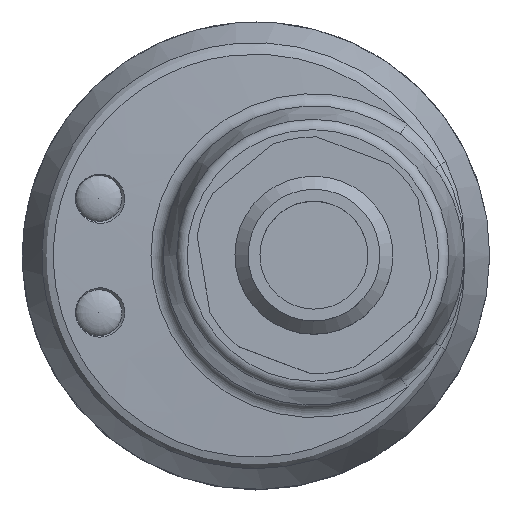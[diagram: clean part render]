
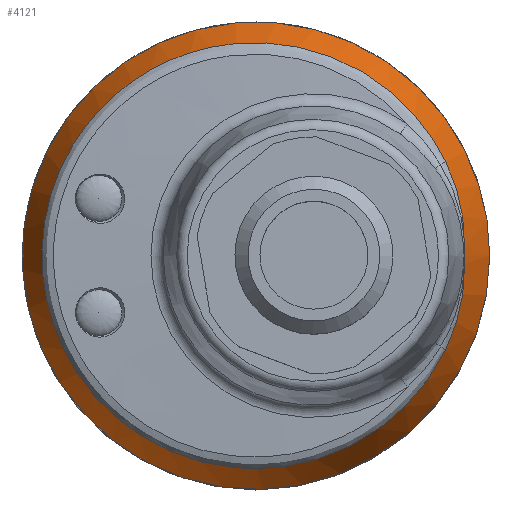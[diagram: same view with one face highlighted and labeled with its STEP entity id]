
A CAD part, top view. The second image highlights one B-rep face of the part: STEP entity #4121.
In plain terms, the highlighted conical face has half-angle 23 degrees and reference radius 15.817 mm.
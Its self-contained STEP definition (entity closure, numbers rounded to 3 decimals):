
#130=B_SPLINE_CURVE_WITH_KNOTS('',3,(#5888,#5889,#5890,#5891,#5892,#5893,
#5894,#5895,#5896,#5897,#5898),.UNSPECIFIED.,.F.,.F.,(4,1,1,1,1,1,1,1,4),
(0.,0.25,0.375,0.438,0.5,0.563,0.625,0.75,1.),.UNSPECIFIED.);
#131=B_SPLINE_CURVE_WITH_KNOTS('',3,(#5911,#5912,#5913,#5914,#5915,#5916,
#5917,#5918,#5919,#5920,#5921),.UNSPECIFIED.,.F.,.F.,(4,1,1,1,1,1,1,1,4),
(0.,0.25,0.375,0.438,0.5,0.563,0.625,0.75,1.),.UNSPECIFIED.);
#136=B_SPLINE_CURVE_WITH_KNOTS('',3,(#6001,#6002,#6003,#6004),
 .UNSPECIFIED.,.F.,.F.,(4,4),(0.,1.),.UNSPECIFIED.);
#142=B_SPLINE_CURVE_WITH_KNOTS('',3,(#6266,#6267,#6268,#6269,#6270,#6271,
#6272,#6273,#6274,#6275,#6276,#6277,#6278,#6279,#6280,#6281,#6282,#6283,
#6284,#6285,#6286,#6287,#6288,#6289,#6290,#6291,#6292,#6293,#6294,#6295,
#6296,#6297,#6298,#6299,#6300,#6301,#6302,#6303,#6304,#6305,#6306,#6307,
#6308,#6309,#6310,#6311,#6312,#6313,#6314,#6315,#6316,#6317,#6318,#6319,
#6320,#6321,#6322,#6323,#6324,#6325,#6326,#6327,#6328,#6329,#6330,#6331,
#6332,#6333,#6334,#6335,#6336,#6337,#6338,#6339,#6340),.UNSPECIFIED.,.F.,
 .F.,(4,1,1,1,1,1,1,1,1,1,1,1,1,1,1,1,1,1,1,1,1,1,1,1,1,1,1,1,1,1,1,1,1,
1,1,1,1,1,1,1,1,1,1,1,1,1,1,1,1,1,1,1,1,1,1,1,1,1,1,1,1,1,1,1,1,1,1,1,1,
1,1,1,4),(0.,0.031,0.063,0.078,0.094,0.102,0.109,0.117,
0.121,0.123,0.125,0.127,0.129,0.133,0.137,
0.141,0.148,0.156,0.172,0.188,0.203,0.219,0.227,0.234,
0.238,0.242,0.246,0.248,0.25,0.251,0.252,
0.254,0.258,0.262,0.266,0.273,0.281,0.297,0.313,
0.328,0.344,0.375,0.406,0.438,0.469,0.484,0.492,0.5,0.508,
0.516,0.531,0.563,0.625,0.656,0.688,0.719,0.734,0.742,
0.75,0.758,0.766,0.781,0.797,0.813,0.844,0.859,0.875,
0.883,0.891,0.906,0.938,0.969,1.),.UNSPECIFIED.);
#701=ORIENTED_EDGE('',*,*,#1312,.T.);
#702=ORIENTED_EDGE('',*,*,#1323,.T.);
#703=ORIENTED_EDGE('',*,*,#1313,.F.);
#704=ORIENTED_EDGE('',*,*,#1347,.T.);
#705=ORIENTED_EDGE('',*,*,#1352,.T.);
#1312=EDGE_CURVE('',#1662,#1663,#130,.T.);
#1313=EDGE_CURVE('',#1664,#1665,#131,.F.);
#1323=EDGE_CURVE('',#1663,#1665,#136,.T.);
#1347=EDGE_CURVE('',#1664,#1662,#142,.T.);
#1352=EDGE_CURVE('',#1693,#1693,#1936,.T.);
#1662=VERTEX_POINT('',#5870);
#1663=VERTEX_POINT('',#5887);
#1664=VERTEX_POINT('',#5922);
#1665=VERTEX_POINT('',#5923);
#1693=VERTEX_POINT('',#6524);
#1936=CIRCLE('',#4370,17.75);
#2149=EDGE_LOOP('',(#701,#702,#703,#704));
#2150=EDGE_LOOP('',(#705));
#2436=FACE_BOUND('',#2149,.T.);
#2437=FACE_BOUND('',#2150,.T.);
#2673=CONICAL_SURFACE('',#4369,15.817,0.401);
#4121=ADVANCED_FACE('',(#2436,#2437),#2673,.T.);
#4369=AXIS2_PLACEMENT_3D('',#6522,#4857,#4858);
#4370=AXIS2_PLACEMENT_3D('',#6523,#4859,#4860);
#4857=DIRECTION('',(0.,0.,-1.));
#4858=DIRECTION('',(-1.,0.,0.));
#4859=DIRECTION('',(0.,0.,1.));
#4860=DIRECTION('',(1.,0.,0.));
#5870=CARTESIAN_POINT('',(14.404,7.136,37.832));
#5887=CARTESIAN_POINT('',(15.84,0.639,38.354));
#5888=CARTESIAN_POINT('',(14.404,7.136,37.832));
#5889=CARTESIAN_POINT('',(14.638,6.659,37.837));
#5890=CARTESIAN_POINT('',(14.957,5.905,37.86));
#5891=CARTESIAN_POINT('',(15.26,4.952,37.916));
#5892=CARTESIAN_POINT('',(15.409,4.399,37.955));
#5893=CARTESIAN_POINT('',(15.514,3.95,37.991));
#5894=CARTESIAN_POINT('',(15.587,3.593,38.023));
#5895=CARTESIAN_POINT('',(15.68,3.066,38.072));
#5896=CARTESIAN_POINT('',(15.806,2.123,38.17));
#5897=CARTESIAN_POINT('',(15.85,1.246,38.275));
#5898=CARTESIAN_POINT('',(15.84,0.639,38.354));
#5911=CARTESIAN_POINT('',(15.84,-0.639,38.354));
#5912=CARTESIAN_POINT('',(15.85,-1.246,38.275));
#5913=CARTESIAN_POINT('',(15.806,-2.123,38.17));
#5914=CARTESIAN_POINT('',(15.68,-3.066,38.072));
#5915=CARTESIAN_POINT('',(15.587,-3.593,38.023));
#5916=CARTESIAN_POINT('',(15.514,-3.95,37.991));
#5917=CARTESIAN_POINT('',(15.409,-4.399,37.955));
#5918=CARTESIAN_POINT('',(15.26,-4.952,37.916));
#5919=CARTESIAN_POINT('',(14.957,-5.905,37.86));
#5920=CARTESIAN_POINT('',(14.638,-6.659,37.837));
#5921=CARTESIAN_POINT('',(14.404,-7.136,37.832));
#5922=CARTESIAN_POINT('',(14.404,-7.136,37.832));
#5923=CARTESIAN_POINT('',(15.84,-0.639,38.354));
#6001=CARTESIAN_POINT('',(15.84,0.639,38.354));
#6002=CARTESIAN_POINT('',(15.868,0.214,38.329));
#6003=CARTESIAN_POINT('',(15.868,-0.214,38.329));
#6004=CARTESIAN_POINT('',(15.84,-0.639,38.354));
#6266=CARTESIAN_POINT('',(14.404,-7.136,37.832));
#6267=CARTESIAN_POINT('',(14.134,-7.686,37.827));
#6268=CARTESIAN_POINT('',(13.468,-8.887,37.814));
#6269=CARTESIAN_POINT('',(12.213,-10.548,37.79));
#6270=CARTESIAN_POINT('',(10.894,-11.888,37.767));
#6271=CARTESIAN_POINT('',(9.928,-12.706,37.751));
#6272=CARTESIAN_POINT('',(9.065,-13.333,37.737));
#6273=CARTESIAN_POINT('',(8.373,-13.784,37.725));
#6274=CARTESIAN_POINT('',(7.753,-14.143,37.716));
#6275=CARTESIAN_POINT('',(7.309,-14.378,37.709));
#6276=CARTESIAN_POINT('',(7.033,-14.515,37.705));
#6277=CARTESIAN_POINT('',(6.869,-14.596,37.702));
#6278=CARTESIAN_POINT('',(6.529,-14.754,37.697));
#6279=CARTESIAN_POINT('',(6.14,-14.923,37.691));
#6280=CARTESIAN_POINT('',(5.638,-15.126,37.683));
#6281=CARTESIAN_POINT('',(5.055,-15.334,37.675));
#6282=CARTESIAN_POINT('',(4.292,-15.574,37.664));
#6283=CARTESIAN_POINT('',(3.374,-15.808,37.651));
#6284=CARTESIAN_POINT('',(1.99,-16.063,37.631));
#6285=CARTESIAN_POINT('',(0.445,-16.193,37.61));
#6286=CARTESIAN_POINT('',(-1.081,-16.161,37.589));
#6287=CARTESIAN_POINT('',(-2.266,-16.037,37.572));
#6288=CARTESIAN_POINT('',(-2.969,-15.918,37.562));
#6289=CARTESIAN_POINT('',(-3.364,-15.839,37.557));
#6290=CARTESIAN_POINT('',(-3.542,-15.801,37.554));
#6291=CARTESIAN_POINT('',(-3.642,-15.779,37.553));
#6292=CARTESIAN_POINT('',(-3.702,-15.765,37.552));
#6293=CARTESIAN_POINT('',(-3.717,-15.762,37.552));
#6294=CARTESIAN_POINT('',(-3.759,-15.752,37.551));
#6295=CARTESIAN_POINT('',(-3.688,-15.768,37.552));
#6296=CARTESIAN_POINT('',(-3.843,-15.732,37.55));
#6297=CARTESIAN_POINT('',(-3.96,-15.704,37.549));
#6298=CARTESIAN_POINT('',(-4.183,-15.648,37.546));
#6299=CARTESIAN_POINT('',(-4.489,-15.565,37.542));
#6300=CARTESIAN_POINT('',(-4.856,-15.457,37.537));
#6301=CARTESIAN_POINT('',(-5.339,-15.301,37.531));
#6302=CARTESIAN_POINT('',(-5.932,-15.087,37.524));
#6303=CARTESIAN_POINT('',(-6.858,-14.703,37.513));
#6304=CARTESIAN_POINT('',(-7.966,-14.15,37.499));
#6305=CARTESIAN_POINT('',(-9.211,-13.38,37.485));
#6306=CARTESIAN_POINT('',(-10.363,-12.516,37.471));
#6307=CARTESIAN_POINT('',(-11.768,-11.253,37.455));
#6308=CARTESIAN_POINT('',(-13.269,-9.499,37.437));
#6309=CARTESIAN_POINT('',(-14.644,-7.204,37.421));
#6310=CARTESIAN_POINT('',(-15.596,-4.807,37.409));
#6311=CARTESIAN_POINT('',(-16.052,-2.784,37.404));
#6312=CARTESIAN_POINT('',(-16.206,-1.393,37.402));
#6313=CARTESIAN_POINT('',(-16.25,-0.596,37.402));
#6314=CARTESIAN_POINT('',(-16.261,-0.036,37.402));
#6315=CARTESIAN_POINT('',(-16.249,0.645,37.402));
#6316=CARTESIAN_POINT('',(-16.197,1.51,37.403));
#6317=CARTESIAN_POINT('',(-16.012,3.043,37.406));
#6318=CARTESIAN_POINT('',(-15.265,6.054,37.414));
#6319=CARTESIAN_POINT('',(-13.558,9.266,37.433));
#6320=CARTESIAN_POINT('',(-11.095,11.954,37.461));
#6321=CARTESIAN_POINT('',(-8.915,13.645,37.486));
#6322=CARTESIAN_POINT('',(-6.874,14.734,37.511));
#6323=CARTESIAN_POINT('',(-5.343,15.308,37.53));
#6324=CARTESIAN_POINT('',(-4.463,15.577,37.542));
#6325=CARTESIAN_POINT('',(-3.75,15.759,37.551));
#6326=CARTESIAN_POINT('',(-3.192,15.877,37.559));
#6327=CARTESIAN_POINT('',(-2.373,16.021,37.57));
#6328=CARTESIAN_POINT('',(-1.335,16.142,37.584));
#6329=CARTESIAN_POINT('',(-0.035,16.191,37.601));
#6330=CARTESIAN_POINT('',(1.747,16.112,37.626));
#6331=CARTESIAN_POINT('',(3.583,15.801,37.652));
#6332=CARTESIAN_POINT('',(5.444,15.216,37.68));
#6333=CARTESIAN_POINT('',(6.563,14.753,37.697));
#6334=CARTESIAN_POINT('',(7.529,14.268,37.713));
#6335=CARTESIAN_POINT('',(8.429,13.756,37.727));
#6336=CARTESIAN_POINT('',(9.903,12.774,37.752));
#6337=CARTESIAN_POINT('',(11.674,11.192,37.782));
#6338=CARTESIAN_POINT('',(13.297,9.16,37.811));
#6339=CARTESIAN_POINT('',(14.078,7.801,37.826));
#6340=CARTESIAN_POINT('',(14.404,7.136,37.832));
#6522=CARTESIAN_POINT('',(0.,0.,38.44));
#6523=CARTESIAN_POINT('',(0.,0.,33.886));
#6524=CARTESIAN_POINT('',(17.75,0.,33.886));
